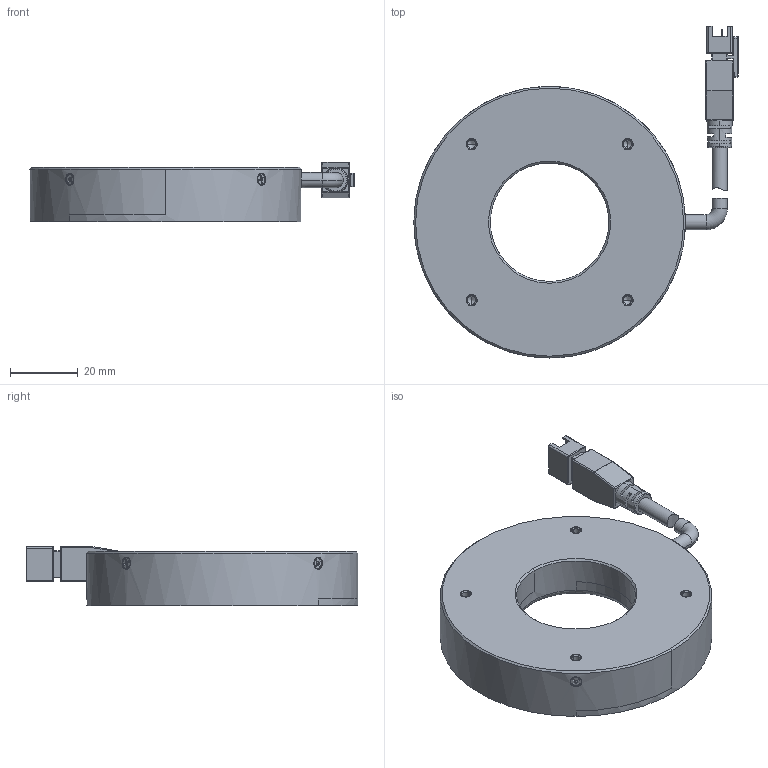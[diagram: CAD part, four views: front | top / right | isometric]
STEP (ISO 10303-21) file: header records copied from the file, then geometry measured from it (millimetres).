
FILE_DESCRIPTION((''),'2;1');
FILE_NAME('80-60','2024-01-30T11:01:22',('qiaoxuan5'),(''),'CREO PARAMETRIC BY PTC INC, 2020044','CREO PARAMETRIC BY PTC INC, 2020044','');
FILE_SCHEMA(('CONFIG_CONTROL_DESIGN'));
Length unit declared in the file: millimetre
Products named in the file (1): 80-60
Bounding box: 95.55 x 97.8 x 17.5 mm (x, y, z)
Volume: 55978.2 mm3; surface area: 27717.7 mm2
Topology: 2 solids, 39 shells, 775 faces, 1920 edges, 1185 vertices
Faces by surface type: plane 404, cylinder 234, cone 102, torus 18, sphere 8, bspline 8, extrusion 1
Entity records: 24803 total; most frequent: CARTESIAN_POINT 6466, DIRECTION 3867, ORIENTED_EDGE 3684, EDGE_CURVE 1888, AXIS2_PLACEMENT_3D 1362, VERTEX_POINT 1185, VECTOR 1143, LINE 1142
